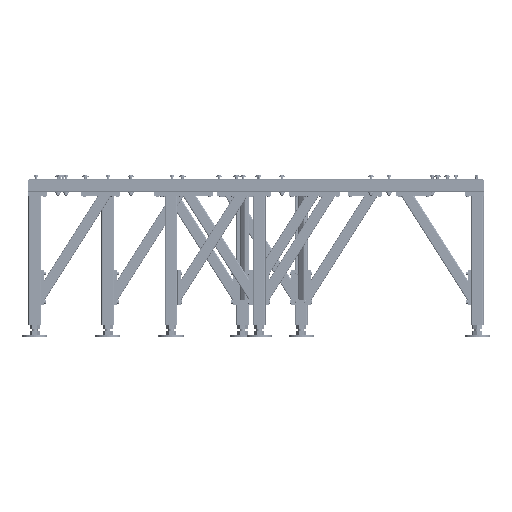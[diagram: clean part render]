
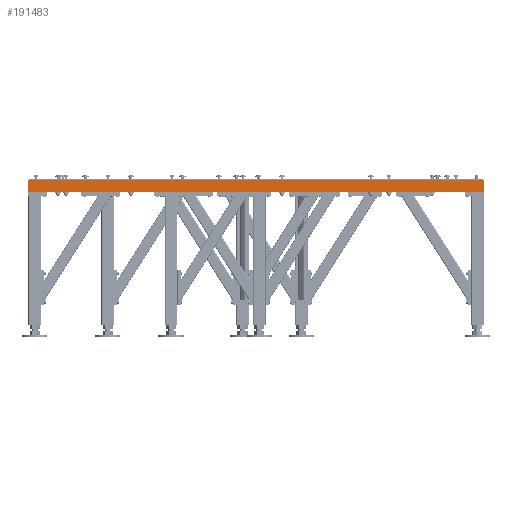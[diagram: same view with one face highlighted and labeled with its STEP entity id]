
A CAD part, left-side view. The second image highlights one B-rep face of the part: STEP entity #191483.
In plain terms, the highlighted planar face has unit normal (-1, 0, 0).
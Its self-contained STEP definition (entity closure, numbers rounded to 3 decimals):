
#2459 = VECTOR ( 'NONE', #71441, 1000. ) ;
#12123 = CARTESIAN_POINT ( 'NONE',  ( 18875., 55500., 34. ) ) ;
#19887 = EDGE_CURVE ( 'NONE', #28748, #205139, #114076, .T. ) ;
#28748 = VERTEX_POINT ( 'NONE', #229356 ) ;
#29977 = VERTEX_POINT ( 'NONE', #114443 ) ;
#32554 = CARTESIAN_POINT ( 'NONE',  ( 18875., 55500., -34. ) ) ;
#34018 = VECTOR ( 'NONE', #187363, 1000. ) ;
#34897 = FACE_OUTER_BOUND ( 'NONE', #93461, .T. ) ;
#46630 = CARTESIAN_POINT ( 'NONE',  ( 18875., 55540., 34. ) ) ;
#50768 = PLANE ( 'NONE',  #132709 ) ;
#69224 = CARTESIAN_POINT ( 'NONE',  ( 18875., 55540., -34. ) ) ;
#71441 = DIRECTION ( 'NONE',  ( 0., 0., 1. ) ) ;
#82813 = LINE ( 'NONE', #32554, #259260 ) ;
#87504 = LINE ( 'NONE', #46630, #34018 ) ;
#93461 = EDGE_LOOP ( 'NONE', ( #209516, #216238, #220751, #111415 ) ) ;
#94912 = EDGE_CURVE ( 'NONE', #184083, #28748, #82813, .T. ) ;
#99641 = CARTESIAN_POINT ( 'NONE',  ( 18875., 55540., -34. ) ) ;
#111415 = ORIENTED_EDGE ( 'NONE', *, *, #204835, .T. ) ;
#114076 = LINE ( 'NONE', #99641, #142263 ) ;
#114443 = CARTESIAN_POINT ( 'NONE',  ( 18875., 58370., 34. ) ) ;
#132709 = AXIS2_PLACEMENT_3D ( 'NONE', #69224, #169647, #190685 ) ;
#142263 = VECTOR ( 'NONE', #177986, 1000. ) ;
#169647 = DIRECTION ( 'NONE',  ( 1., 0., 0. ) ) ;
#177986 = DIRECTION ( 'NONE',  ( 0., 1., 0. ) ) ;
#178391 = CARTESIAN_POINT ( 'NONE',  ( 18875., 58370., -34. ) ) ;
#184083 = VERTEX_POINT ( 'NONE', #12123 ) ;
#187363 = DIRECTION ( 'NONE',  ( 0., 1., 0. ) ) ;
#190685 = DIRECTION ( 'NONE',  ( 0., 0., -1. ) ) ;
#191483 = ADVANCED_FACE ( 'NONE', ( #34897 ), #50768, .F. ) ;
#204835 = EDGE_CURVE ( 'NONE', #184083, #29977, #87504, .T. ) ;
#205139 = VERTEX_POINT ( 'NONE', #178391 ) ;
#209516 = ORIENTED_EDGE ( 'NONE', *, *, #228084, .F. ) ;
#216238 = ORIENTED_EDGE ( 'NONE', *, *, #19887, .F. ) ;
#220751 = ORIENTED_EDGE ( 'NONE', *, *, #94912, .F. ) ;
#228084 = EDGE_CURVE ( 'NONE', #205139, #29977, #247986, .T. ) ;
#229356 = CARTESIAN_POINT ( 'NONE',  ( 18875., 55500., -34. ) ) ;
#230561 = DIRECTION ( 'NONE',  ( 0., 0., -1. ) ) ;
#247986 = LINE ( 'NONE', #250945, #2459 ) ;
#250945 = CARTESIAN_POINT ( 'NONE',  ( 18875., 58370., -34. ) ) ;
#259260 = VECTOR ( 'NONE', #230561, 1000. ) ;
